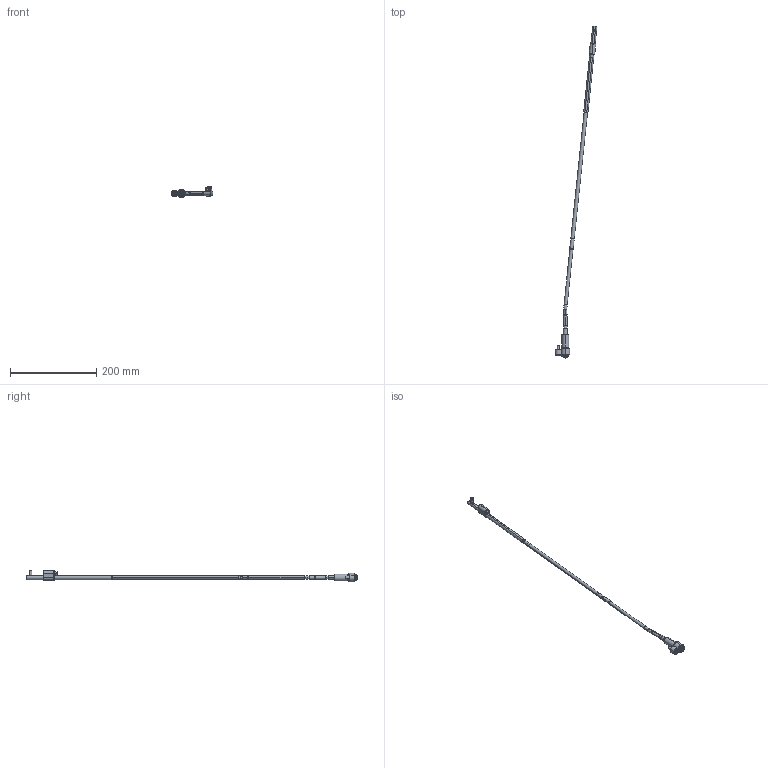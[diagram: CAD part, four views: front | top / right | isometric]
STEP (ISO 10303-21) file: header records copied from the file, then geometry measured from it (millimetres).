
FILE_DESCRIPTION (( 'STEP AP214' ), '1' );
FILE_NAME ('WL080125-EJE 6°.STEP', '2021-03-19T15:30:10', ( '' ), ( '' ), 'SwSTEP 2.0', 'SolidWorks 2019', '' );
FILE_SCHEMA (( 'AUTOMOTIVE_DESIGN' ));
Length unit declared in the file: millimetre
Products named in the file (17): WL080125-EJE 6°; Web-WL08-F00.SLDPRT; Web-WL08XX-A7_ON-WL080125-6; WL080100-D; WL080100-C; WL080100-B1_WL0800FF-1; Web-WP08-1; WL080100-B_WL0800FF; WL080100-E; 1DIN912616_DIN 912 M6 x 16 --- 16C; 3IMAN4X2-150_con sello; Web-WL08-A2; 1DIN912545_DIN 912 M5 x 50 --- 50C; Web-WL08-A3; Web-WL08-F01; 9DR2206-TOR; Web-WL08-A1
Assembly tree (16 placements, depth 3):
  WL080125-EJE 6°
    Web-WP08-1
    Web-WL08XX-A7_ON-WL080125-6
    Web-WL08-A3
    Web-WL08-A2
    Web-WL08-A1
    WL080100-D
    WL080100-C
    WL080100-B_WL0800FF
      WL080100-B1_WL0800FF-1
      3IMAN4X2-150_con sello
    WL080100-E
    9DR2206-TOR
    Web-WL08-F00.SLDPRT
      Web-WL08-F01
      1DIN912545_DIN 912 M5 x 50 --- 50C
      1DIN912616_DIN 912 M6 x 16 --- 16C
Bounding box: 97.17 x 768.89 x 26.9 mm (x, y, z)
Volume: 58700.3 mm3; surface area: 34415.3 mm2
Topology: 15 solids, 15 shells, 424 faces, 888 edges, 516 vertices
Faces by surface type: plane 132, cylinder 128, cone 116, torus 48
Entity records: 13492 total; most frequent: DIRECTION 2218, CARTESIAN_POINT 2045, ORIENTED_EDGE 1756, AXIS2_PLACEMENT_3D 921, EDGE_CURVE 878, VERTEX_POINT 516, CIRCLE 476, EDGE_LOOP 468
